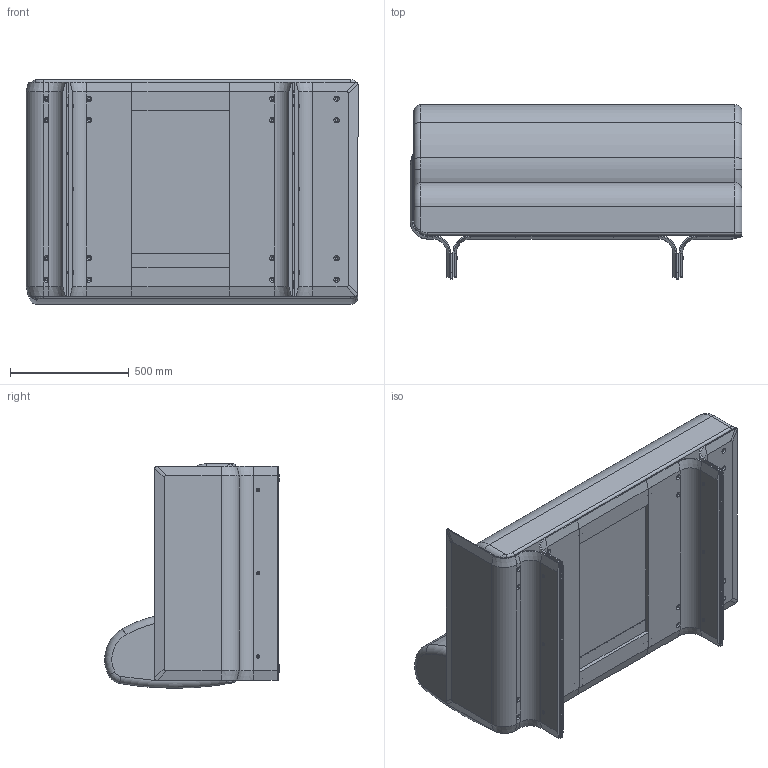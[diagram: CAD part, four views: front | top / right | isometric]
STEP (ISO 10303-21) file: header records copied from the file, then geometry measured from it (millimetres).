
FILE_DESCRIPTION (( 'STEP AP214' ), '1' );
FILE_NAME ('1380 SX.STEP', '2024-06-05T12:45:32', ( '' ), ( '' ), 'SwSTEP 2.0', 'SolidWorks 2023', '' );
FILE_SCHEMA (( 'AUTOMOTIVE_DESIGN' ));
Length unit declared in the file: millimetre
Products named in the file (12): BASE_FASCIA_COLLEGAMENTO_x_MODULARE_1380 TERMINALE; SCHIENALE_GOMMA_1380 SX; BASE_TERMINALE_SOFA; 1380 SX; BASE_COMPONENTI_SEMIPONTE TERMINALE; BASE_COMPONENTI_SEMIPONTE CENTRALE; boccola_borchia M6; BASE_DISTANZIALE_1cm; SEDILE_1380 LATERALE solo GOMMA; 20PT8X30N scivolo IPEA; PIEDINO_L900; STAMI_SOFA_PLUS_BASE_ASSIEME_1380 TERMINALE
Assembly tree (29 placements, depth 3):
  1380 SX
    STAMI_SOFA_PLUS_BASE_ASSIEME_1380 TERMINALE
      BASE_TERMINALE_SOFA
      BASE_DISTANZIALE_1cm  x2
      PIEDINO_L900  x2
      20PT8X30N scivolo IPEA  x4
      BASE_COMPONENTI_SEMIPONTE CENTRALE  x2
      BASE_FASCIA_COLLEGAMENTO_x_MODULARE_1380 TERMINALE  x2
      BASE_COMPONENTI_SEMIPONTE TERMINALE
      boccola_borchia M6  x12
    SEDILE_1380 LATERALE solo GOMMA
    SCHIENALE_GOMMA_1380 SX
Bounding box: 1395 x 733.94 x 943.25 mm (x, y, z)
Volume: 436188819.3 mm3; surface area: 9173493.4 mm2
Topology: 28 solids, 28 shells, 761 faces, 1811 edges, 1086 vertices
Faces by surface type: cylinder 327, plane 266, cone 90, torus 56, sphere 16, bspline 6
Entity records: 11863 total; most frequent: CARTESIAN_POINT 2740, DIRECTION 1994, ORIENTED_EDGE 1712, EDGE_CURVE 856, AXIS2_PLACEMENT_3D 789, VERTEX_POINT 524, EDGE_LOOP 426, LINE 416
